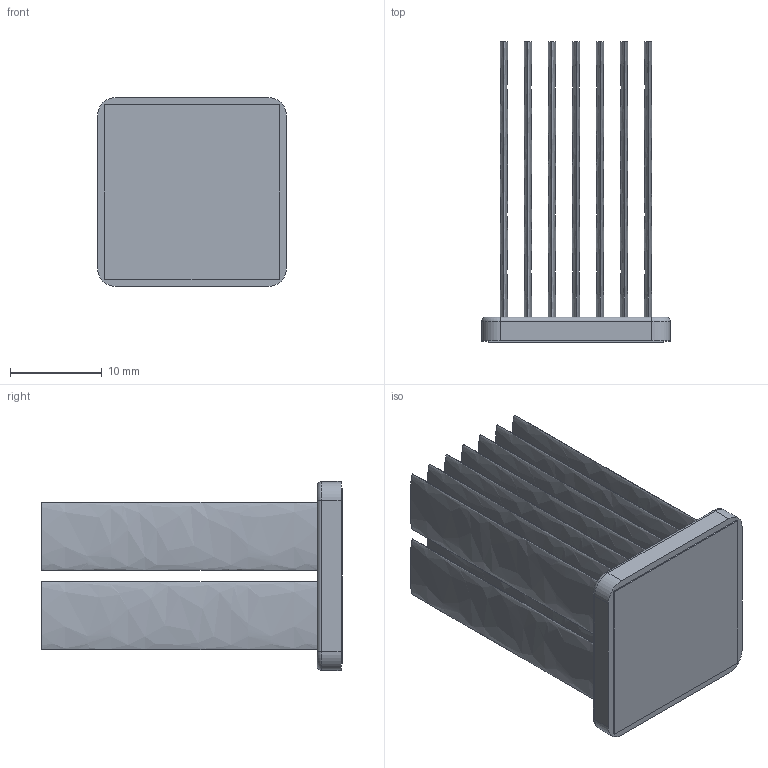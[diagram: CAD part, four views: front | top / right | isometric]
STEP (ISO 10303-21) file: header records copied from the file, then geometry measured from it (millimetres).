
FILE_DESCRIPTION (( 'STEP AP214' ), '1' );
FILE_NAME ('INM21001-33W-2.6.STEP', '2023-03-02T21:18:13', ( '' ), ( '' ), 'SwSTEP 2.0', 'SolidWorks 2020', '' );
FILE_SCHEMA (( 'AUTOMOTIVE_DESIGN' ));
Length unit declared in the file: millimetre
Products named in the file (1): INM21001-33W-2.6
Bounding box: 20.6 x 32.73 x 20.6 mm (x, y, z)
Volume: 3125.4 mm3; surface area: 8107.8 mm2
Topology: 2 solids, 2 shells, 66 faces, 136 edges, 88 vertices
Faces by surface type: bspline 28, plane 26, cylinder 8, torus 4
Entity records: 2569 total; most frequent: CARTESIAN_POINT 655, ORIENTED_EDGE 272, DIRECTION 178, EDGE_CURVE 136, VERTEX_POINT 88, EDGE_LOOP 80, UNCERTAINTY_MEASURE_WITH_UNIT 70, PRESENTATION_LAYER_ASSIGNMENT 69
